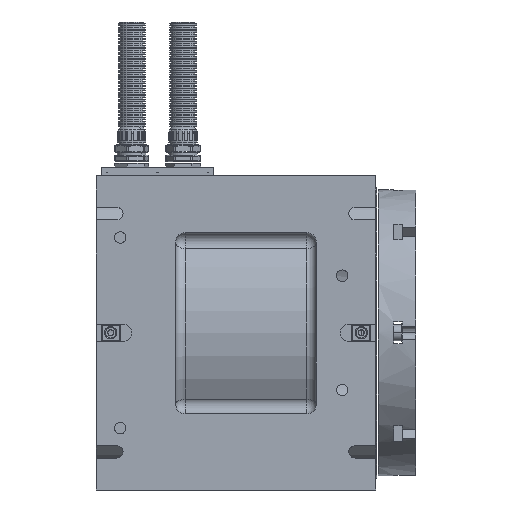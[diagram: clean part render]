
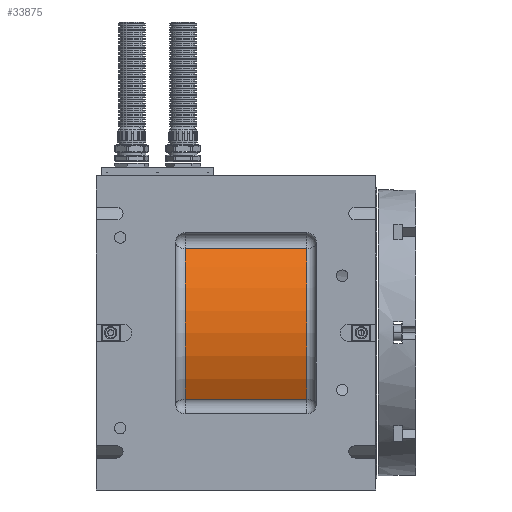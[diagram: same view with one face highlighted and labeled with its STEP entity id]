
A CAD part, front view. The second image highlights one B-rep face of the part: STEP entity #33875.
In plain terms, the highlighted cylindrical face has radius 138.5 mm (diameter 277 mm), a partial arc.
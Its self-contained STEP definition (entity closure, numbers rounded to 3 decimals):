
#115 = DIRECTION ( 'NONE',  ( -1., 0., 0. ) ) ;
#1675 = CARTESIAN_POINT ( 'NONE',  ( 93., -106.451, 88.603 ) ) ;
#1896 = EDGE_CURVE ( 'NONE', #26572, #33947, #30532, .T. ) ;
#2481 = AXIS2_PLACEMENT_3D ( 'NONE', #5333, #28569, #37542 ) ;
#2528 = CARTESIAN_POINT ( 'NONE',  ( 83., -106.451, 88.603 ) ) ;
#2650 = EDGE_CURVE ( 'NONE', #4541, #26572, #3970, .T. ) ;
#3970 = LINE ( 'NONE', #27408, #23094 ) ;
#4541 = VERTEX_POINT ( 'NONE', #17597 ) ;
#4833 = ORIENTED_EDGE ( 'NONE', *, *, #24404, .F. ) ;
#5333 = CARTESIAN_POINT ( 'NONE',  ( 83., 0., 0. ) ) ;
#6010 = CARTESIAN_POINT ( 'NONE',  ( 221., 0., 0. ) ) ;
#6923 = VERTEX_POINT ( 'NONE', #1675 ) ;
#8326 = DIRECTION ( 'NONE',  ( 0., 0., -1. ) ) ;
#9568 = ORIENTED_EDGE ( 'NONE', *, *, #2650, .T. ) ;
#10271 = DIRECTION ( 'NONE',  ( 1., 0., 0. ) ) ;
#13520 = FACE_OUTER_BOUND ( 'NONE', #21309, .T. ) ;
#14120 = AXIS2_PLACEMENT_3D ( 'NONE', #6010, #115, #18213 ) ;
#14355 = VECTOR ( 'NONE', #25970, 1000. ) ;
#16032 = ORIENTED_EDGE ( 'NONE', *, *, #1896, .T. ) ;
#17597 = CARTESIAN_POINT ( 'NONE',  ( 93., -119.538, -69.949 ) ) ;
#17893 = AXIS2_PLACEMENT_3D ( 'NONE', #22820, #34446, #8326 ) ;
#18213 = DIRECTION ( 'NONE',  ( 0., 0., -1. ) ) ;
#20470 = EDGE_CURVE ( 'NONE', #6923, #4541, #26983, .T. ) ;
#21309 = EDGE_LOOP ( 'NONE', ( #9568, #16032, #4833, #35853 ) ) ;
#21689 = CARTESIAN_POINT ( 'NONE',  ( 221., -119.538, -69.949 ) ) ;
#22820 = CARTESIAN_POINT ( 'NONE',  ( 93., 0., 0. ) ) ;
#23094 = VECTOR ( 'NONE', #10271, 1000. ) ;
#24404 = EDGE_CURVE ( 'NONE', #6923, #33947, #37225, .T. ) ;
#25156 = CYLINDRICAL_SURFACE ( 'NONE', #2481, 138.5 ) ;
#25970 = DIRECTION ( 'NONE',  ( 1., 0., 0. ) ) ;
#26572 = VERTEX_POINT ( 'NONE', #21689 ) ;
#26983 = CIRCLE ( 'NONE', #17893, 138.5 ) ;
#27408 = CARTESIAN_POINT ( 'NONE',  ( 83., -119.538, -69.949 ) ) ;
#28569 = DIRECTION ( 'NONE',  ( 1., 0., 0. ) ) ;
#28947 = CARTESIAN_POINT ( 'NONE',  ( 221., -106.451, 88.603 ) ) ;
#30532 = CIRCLE ( 'NONE', #14120, 138.5 ) ;
#33875 = ADVANCED_FACE ( 'NONE', ( #13520 ), #25156, .T. ) ;
#33947 = VERTEX_POINT ( 'NONE', #28947 ) ;
#34446 = DIRECTION ( 'NONE',  ( 1., 0., 0. ) ) ;
#35853 = ORIENTED_EDGE ( 'NONE', *, *, #20470, .T. ) ;
#37225 = LINE ( 'NONE', #2528, #14355 ) ;
#37542 = DIRECTION ( 'NONE',  ( 0., 0., -1. ) ) ;
